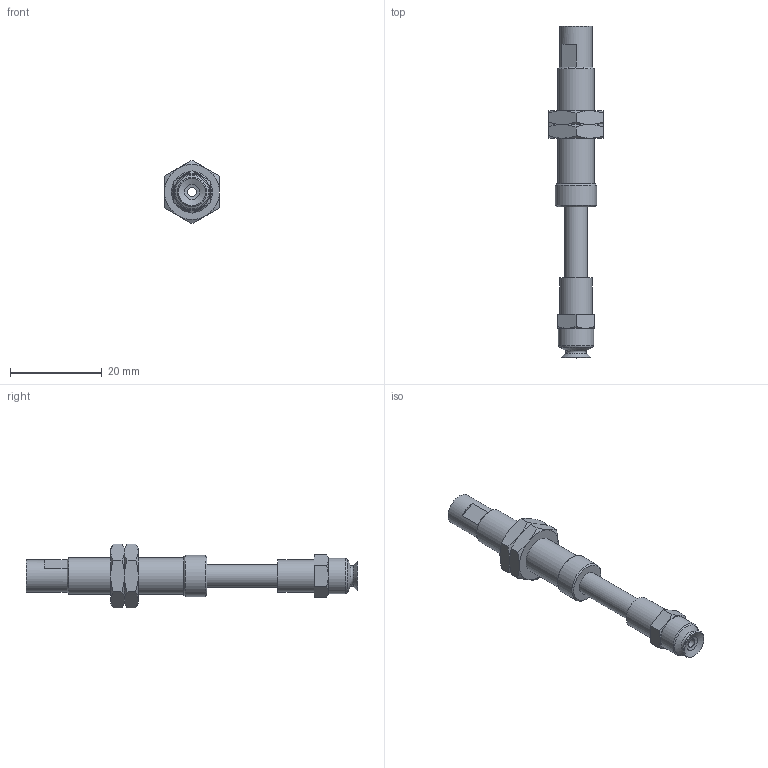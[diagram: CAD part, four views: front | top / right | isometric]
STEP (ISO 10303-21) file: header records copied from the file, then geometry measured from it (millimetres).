
FILE_DESCRIPTION(('STEP AP203'),'1');
FILE_NAME('-SPE.stp','2025-04-11T08:43:53',(' '),(' '),'Spatial InterOp 3D',' ',' ');
FILE_SCHEMA(('CONFIG_CONTROL_DESIGN'));
Length unit declared in the file: millimetre
Products named in the file (9): BNABPFTS-6A-15-※-SPE; NUT; BODY; STOPPER; ZIG; TN-PS-10-M5; Setting screws-TN-PS-10-M5; BPFG-6A-※
Assembly tree (8 placements, depth 3):
  BNABPFTS-6A-15-※-SPE
    NUT
    NUT
    BODY
    STOPPER
    ZIG
    TN-PS-10-M5
      Setting screws-TN-PS-10-M5
    BPFG-6A-※
Bounding box: 12 x 72.5 x 13.86 mm (x, y, z)
Volume: 2961.2 mm3; surface area: 4515 mm2
Topology: 7 solids, 7 shells, 143 faces, 298 edges, 181 vertices
Faces by surface type: plane 60, cone 48, cylinder 26, torus 8, bspline 1
Full cylindrical faces by diameter (mm): 2 x3, 3.4 x1, 3.5 x1, 3.9 x1, 4 x5, 4.2 x2, 5 x3, 5.2 x1, 6 x2, 7 x2, 7.25 x2, 7.7 x1, 8 x1, 9 x1
Entity records: 3935 total; most frequent: CARTESIAN_POINT 760, DIRECTION 588, ORIENTED_EDGE 460, AXIS2_PLACEMENT_3D 266, EDGE_CURVE 230, EDGE_LOOP 222, FACE_OUTER_BOUND 178, VERTEX_POINT 166
